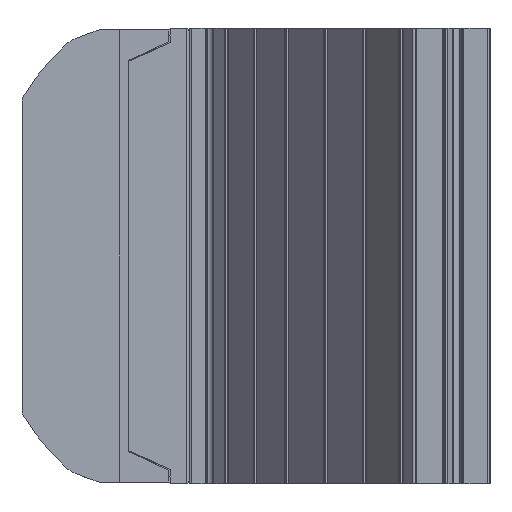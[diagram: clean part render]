
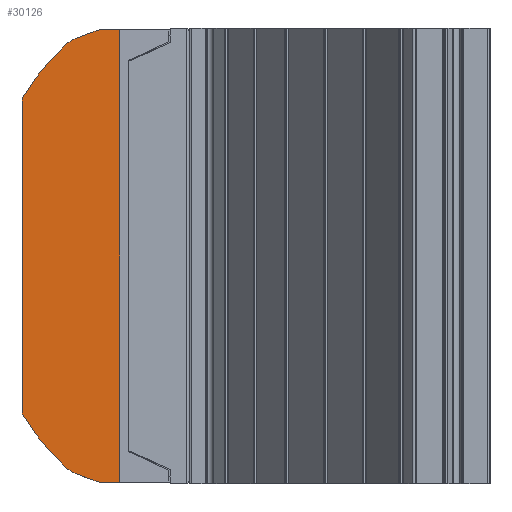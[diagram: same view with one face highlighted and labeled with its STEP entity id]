
A CAD part, left-side view. The second image highlights one B-rep face of the part: STEP entity #30126.
In plain terms, the highlighted planar face has unit normal (-1, 0.009, 0).
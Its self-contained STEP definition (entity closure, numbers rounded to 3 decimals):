
#327=ELLIPSE('',#33131,0.2,0.2);
#328=ELLIPSE('',#33132,5.,5.);
#329=ELLIPSE('',#33133,0.5,0.5);
#330=ELLIPSE('',#33134,0.5,0.5);
#331=ELLIPSE('',#33135,0.5,0.5);
#332=ELLIPSE('',#33136,0.5,0.5);
#333=ELLIPSE('',#33137,5.,5.);
#334=ELLIPSE('',#33138,0.2,0.2);
#2293=FACE_OUTER_BOUND('',#4816,.T.);
#4816=EDGE_LOOP('',(#24703,#24704,#24705,#24706,#24707,#24708,#24709,#24710,
#24711,#24712,#24713,#24714,#24715,#24716));
#8161=LINE('',#50944,#10678);
#8329=LINE('',#51522,#10846);
#8330=LINE('',#51525,#10847);
#8331=LINE('',#51527,#10848);
#8332=LINE('',#51529,#10849);
#8333=LINE('',#51533,#10850);
#10678=VECTOR('',#40486,6.795);
#10846=VECTOR('',#40986,0.49);
#10847=VECTOR('',#40989,0.409);
#10848=VECTOR('',#40990,9.939);
#10849=VECTOR('',#40991,0.409);
#10850=VECTOR('',#40994,0.49);
#12582=VERTEX_POINT('',#47892);
#13586=VERTEX_POINT('',#50941);
#13587=VERTEX_POINT('',#50943);
#13732=VERTEX_POINT('',#51515);
#13733=VERTEX_POINT('',#51517);
#13734=VERTEX_POINT('',#51519);
#13735=VERTEX_POINT('',#51521);
#13736=VERTEX_POINT('',#51523);
#13737=VERTEX_POINT('',#51526);
#13738=VERTEX_POINT('',#51528);
#13739=VERTEX_POINT('',#51530);
#13740=VERTEX_POINT('',#51532);
#13741=VERTEX_POINT('',#51534);
#13742=VERTEX_POINT('',#51536);
#17271=EDGE_CURVE('',#13587,#13586,#8161,.T.);
#17508=EDGE_CURVE('',#13732,#13586,#327,.T.);
#17509=EDGE_CURVE('',#13732,#13733,#328,.F.);
#17510=EDGE_CURVE('',#13734,#13733,#329,.T.);
#17511=EDGE_CURVE('',#13734,#13735,#8329,.F.);
#17512=EDGE_CURVE('',#13736,#13735,#330,.T.);
#17513=EDGE_CURVE('',#13736,#12582,#8330,.T.);
#17514=EDGE_CURVE('',#12582,#13737,#8331,.T.);
#17515=EDGE_CURVE('',#13737,#13738,#8332,.T.);
#17516=EDGE_CURVE('',#13739,#13738,#331,.T.);
#17517=EDGE_CURVE('',#13739,#13740,#8333,.F.);
#17518=EDGE_CURVE('',#13741,#13740,#332,.T.);
#17519=EDGE_CURVE('',#13741,#13742,#333,.F.);
#17520=EDGE_CURVE('',#13587,#13742,#334,.T.);
#24703=ORIENTED_EDGE('',*,*,#17271,.T.);
#24704=ORIENTED_EDGE('',*,*,#17508,.F.);
#24705=ORIENTED_EDGE('',*,*,#17509,.T.);
#24706=ORIENTED_EDGE('',*,*,#17510,.F.);
#24707=ORIENTED_EDGE('',*,*,#17511,.T.);
#24708=ORIENTED_EDGE('',*,*,#17512,.F.);
#24709=ORIENTED_EDGE('',*,*,#17513,.T.);
#24710=ORIENTED_EDGE('',*,*,#17514,.T.);
#24711=ORIENTED_EDGE('',*,*,#17515,.T.);
#24712=ORIENTED_EDGE('',*,*,#17516,.F.);
#24713=ORIENTED_EDGE('',*,*,#17517,.T.);
#24714=ORIENTED_EDGE('',*,*,#17518,.F.);
#24715=ORIENTED_EDGE('',*,*,#17519,.T.);
#24716=ORIENTED_EDGE('',*,*,#17520,.F.);
#26918=PLANE('',#33130);
#30126=ADVANCED_FACE('',(#2293),#26918,.T.);
#33130=AXIS2_PLACEMENT_3D('',#51514,#40978,#40979);
#33131=AXIS2_PLACEMENT_3D('',#51516,#40980,#40981);
#33132=AXIS2_PLACEMENT_3D('',#51518,#40982,#40983);
#33133=AXIS2_PLACEMENT_3D('',#51520,#40984,#40985);
#33134=AXIS2_PLACEMENT_3D('',#51524,#40987,#40988);
#33135=AXIS2_PLACEMENT_3D('',#51531,#40992,#40993);
#33136=AXIS2_PLACEMENT_3D('',#51535,#40995,#40996);
#33137=AXIS2_PLACEMENT_3D('',#51537,#40997,#40998);
#33138=AXIS2_PLACEMENT_3D('',#51538,#40999,#41000);
#40486=DIRECTION('',(0.,0.,-1.));
#40978=DIRECTION('center_axis',(-1.,0.009,
0.));
#40979=DIRECTION('ref_axis',(0.009,1.,0.));
#40980=DIRECTION('center_axis',(1.,-0.009,
0.));
#40981=DIRECTION('ref_axis',(0.009,1.,0.));
#40982=DIRECTION('center_axis',(1.,-0.009,
0.));
#40983=DIRECTION('ref_axis',(0.009,1.,0.));
#40984=DIRECTION('center_axis',(1.,-0.009,
0.));
#40985=DIRECTION('ref_axis',(0.009,1.,0.));
#40986=DIRECTION('',(0.009,0.94,0.342));
#40987=DIRECTION('center_axis',(1.,-0.009,
0.));
#40988=DIRECTION('ref_axis',(0.009,1.,0.));
#40989=DIRECTION('',(-0.009,-1.,-0.009));
#40990=DIRECTION('',(0.,0.,1.));
#40991=DIRECTION('',(0.009,1.,-0.009));
#40992=DIRECTION('center_axis',(1.,-0.009,
0.));
#40993=DIRECTION('ref_axis',(0.009,1.,0.));
#40994=DIRECTION('',(-0.009,-0.94,0.342));
#40995=DIRECTION('center_axis',(1.,-0.009,
0.));
#40996=DIRECTION('ref_axis',(0.009,1.,0.));
#40997=DIRECTION('center_axis',(1.,-0.009,
0.));
#40998=DIRECTION('ref_axis',(0.009,1.,0.));
#40999=DIRECTION('center_axis',(1.,-0.009,
0.));
#41000=DIRECTION('ref_axis',(0.009,1.,0.));
#47892=CARTESIAN_POINT('',(-2.241,1.228,-4.969));
#50941=CARTESIAN_POINT('',(-2.221,3.37,-3.398));
#50943=CARTESIAN_POINT('',(-2.221,3.37,3.398));
#50944=CARTESIAN_POINT('',(-2.221,3.37,0.));
#51514=CARTESIAN_POINT('Origin',(-2.241,1.228,0.));
#51515=CARTESIAN_POINT('',(-2.221,3.342,-3.5));
#51516=CARTESIAN_POINT('Origin',(-2.223,3.17,-3.398));
#51517=CARTESIAN_POINT('',(-2.23,2.365,-4.677));
#51518=CARTESIAN_POINT('Origin',(-2.262,-0.949,-0.932));
#51519=CARTESIAN_POINT('',(-2.232,2.205,-4.772));
#51520=CARTESIAN_POINT('Origin',(-2.233,2.034,-4.302));
#51521=CARTESIAN_POINT('',(-2.236,1.744,-4.94));
#51522=CARTESIAN_POINT('',(-2.228,2.584,-4.634));
#51523=CARTESIAN_POINT('',(-2.237,1.637,-4.966));
#51524=CARTESIAN_POINT('Origin',(-2.238,1.573,-4.47));
#51525=CARTESIAN_POINT('',(-2.241,1.26,-4.969));
#51526=CARTESIAN_POINT('',(-2.241,1.228,4.969));
#51527=CARTESIAN_POINT('',(-2.241,1.228,0.));
#51528=CARTESIAN_POINT('',(-2.237,1.637,4.966));
#51529=CARTESIAN_POINT('',(-2.238,1.51,4.967));
#51530=CARTESIAN_POINT('',(-2.236,1.744,4.94));
#51531=CARTESIAN_POINT('Origin',(-2.238,1.573,4.47));
#51532=CARTESIAN_POINT('',(-2.232,2.205,4.772));
#51533=CARTESIAN_POINT('',(-2.231,2.287,4.742));
#51534=CARTESIAN_POINT('',(-2.23,2.365,4.677));
#51535=CARTESIAN_POINT('Origin',(-2.233,2.034,4.302));
#51536=CARTESIAN_POINT('',(-2.221,3.342,3.5));
#51537=CARTESIAN_POINT('Origin',(-2.262,-0.949,0.932));
#51538=CARTESIAN_POINT('Origin',(-2.223,3.17,3.398));
